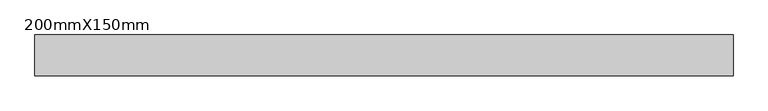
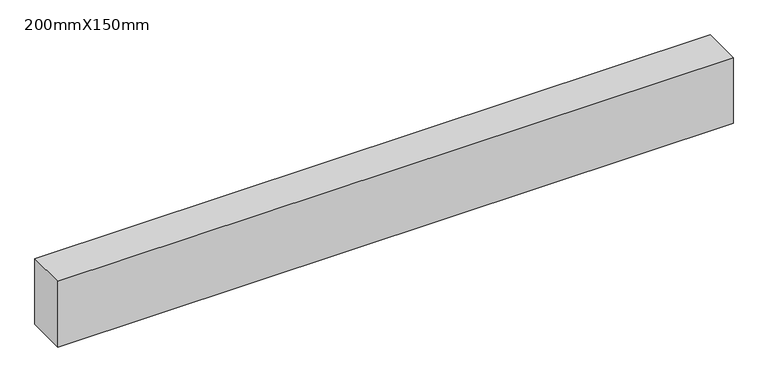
"""IFC4 building model written with IfcOpenShell, lengths in millimetres: beam geometry, 混凝土 - 矩形梁 : 200mmX150mm."""

from ifc_helpers import new_model, si_unit, frame, origin, place, context, project, spatial, polyline, outline, extrude, source, transform, mapped, element, save


def beam_200mmx150mm_381acce5(model_context):
    return source(origin(), model_context, "Body", "SweptSolid", [
        extrude(outline(polyline([(1700.0, 100.0), (1700.0, -100.0), (-1700.0, -100.0), (-1700.0, 100.0), (1700.0, 100.0)])), frame((0.0, 0.0, -175.0), z_axis=(0.0, 0.0, 1.0), x_axis=(1.0, 0.0, 0.0)), (0.0, 0.0, 1.0), 350.0),
    ])


if __name__ == "__main__":
    model = new_model("IFC4")
    model_context = context("Model", 3, world=origin())
    ifc_project = project(units=[si_unit("LENGTHUNIT", "METRE", prefix="MILLI")], contexts=[model_context])
    site = spatial("IfcSite", under=ifc_project)
    building = spatial("IfcBuilding", under=site)
    placement = place(None, origin())
    beam_200mmx150mm_shape = beam_200mmx150mm_381acce5(model_context)
    element("IfcBeam", 1, ObjectType="混凝土 - 矩形梁 : 200mmX150mm", at=placement, inside=building, context=model_context, shape_type="MappedRepresentation", body=[
        mapped(beam_200mmx150mm_shape, transform((0.0, 0.0, 0.0), x_axis=(1.0, 0.0, 0.0), y_axis=(0.0, 1.0, 0.0), z_axis=(0.0, 0.0, 1.0))),
    ])
    save(model, "model.ifc")
